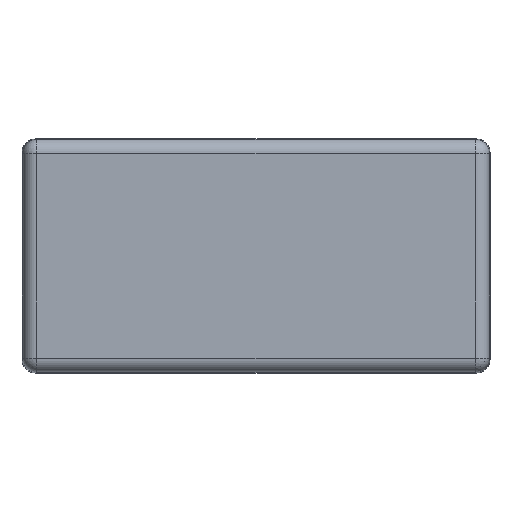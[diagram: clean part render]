
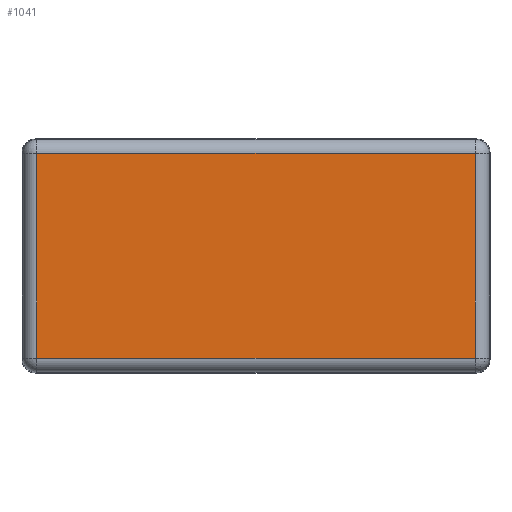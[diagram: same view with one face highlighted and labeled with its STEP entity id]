
A CAD part, top view. The second image highlights one B-rep face of the part: STEP entity #1041.
In plain terms, the highlighted planar face has unit normal (0, 0, 1).
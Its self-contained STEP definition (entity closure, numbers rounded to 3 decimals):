
#53=LINE($,#1657,#101);
#54=LINE($,#1659,#102);
#55=LINE($,#1661,#103);
#56=LINE($,#1662,#104);
#101=VECTOR($,#1330,47.634);
#102=VECTOR($,#1331,22.234);
#103=VECTOR($,#1332,47.634);
#104=VECTOR($,#1333,22.234);
#152=PLANE($,#1139);
#269=FACE_OUTER_BOUND($,#350,.T.);
#350=EDGE_LOOP($,(#763,#764,#765,#766));
#527=VERTEX_POINT($,#1655);
#528=VERTEX_POINT($,#1656);
#529=VERTEX_POINT($,#1658);
#530=VERTEX_POINT($,#1660);
#621=EDGE_CURVE($,#527,#528,#53,.T.);
#622=EDGE_CURVE($,#529,#527,#54,.T.);
#623=EDGE_CURVE($,#530,#529,#55,.T.);
#624=EDGE_CURVE($,#528,#530,#56,.T.);
#763=ORIENTED_EDGE($,*,*,#621,.F.);
#764=ORIENTED_EDGE($,*,*,#622,.F.);
#765=ORIENTED_EDGE($,*,*,#623,.F.);
#766=ORIENTED_EDGE($,*,*,#624,.F.);
#1041=ADVANCED_FACE($,(#269),#152,.T.);
#1139=AXIS2_PLACEMENT_3D($,#1654,#1328,#1329);
#1328=DIRECTION('center_axis',(0.,0.,1.));
#1329=DIRECTION('ref_axis',(1.,0.,0.));
#1330=DIRECTION($,(-1.,0.,0.));
#1331=DIRECTION($,(0.,-1.,0.));
#1332=DIRECTION($,(1.,0.,0.));
#1333=DIRECTION($,(0.,1.,0.));
#1654=CARTESIAN_POINT('Origin',(25.4,12.7,11.));
#1655=CARTESIAN_POINT('',(49.217,1.583,11.));
#1656=CARTESIAN_POINT('',(1.583,1.583,11.));
#1657=CARTESIAN_POINT($,(38.1,1.583,11.));
#1658=CARTESIAN_POINT('',(49.217,23.817,11.));
#1659=CARTESIAN_POINT($,(49.217,19.05,11.));
#1660=CARTESIAN_POINT('',(1.583,23.817,11.));
#1661=CARTESIAN_POINT($,(12.7,23.817,11.));
#1662=CARTESIAN_POINT($,(1.583,6.35,11.));
